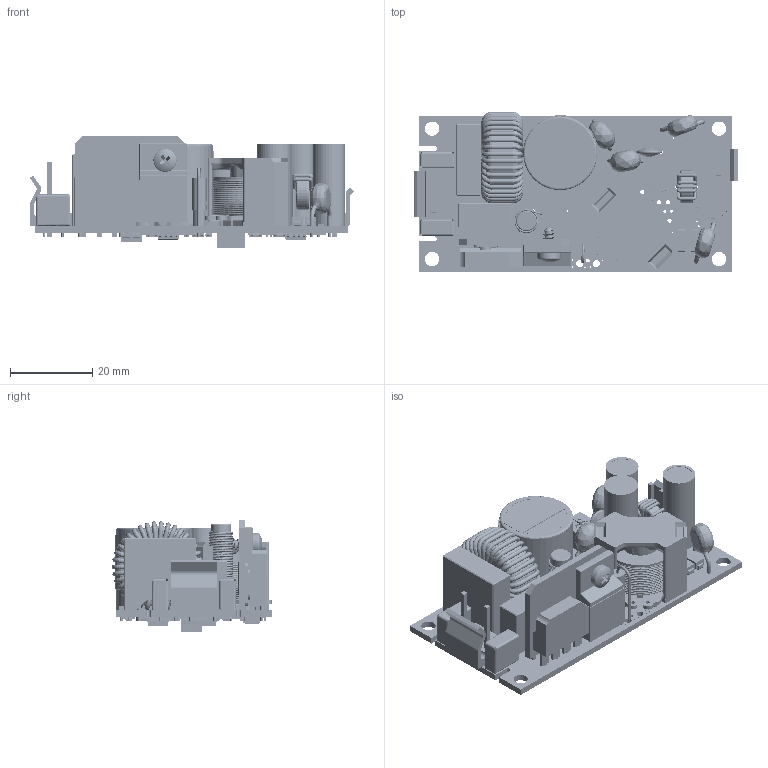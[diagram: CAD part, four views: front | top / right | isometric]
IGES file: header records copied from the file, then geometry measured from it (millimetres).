
Start section: SolidWorks IGES file using analytic representation for surfaces
Global section: file name: C:\Users\ksmith\Desktop\ECF40\ECF40.IGS; native system: SolidWorks 2018; preprocessor: SolidWorks 2018; author: ksmith; date: 180906.100232; units: inch
Bounding box: 79 x 39.02 x 27.4 mm (x, y, z)
Surface area: 35841.2 mm2 (no closed solid volume)
Topology: 0 solids, 0 shells, 3836 faces, 29043 edges, 28998 vertices
Faces by surface type: bspline 2380, revolution 1456
